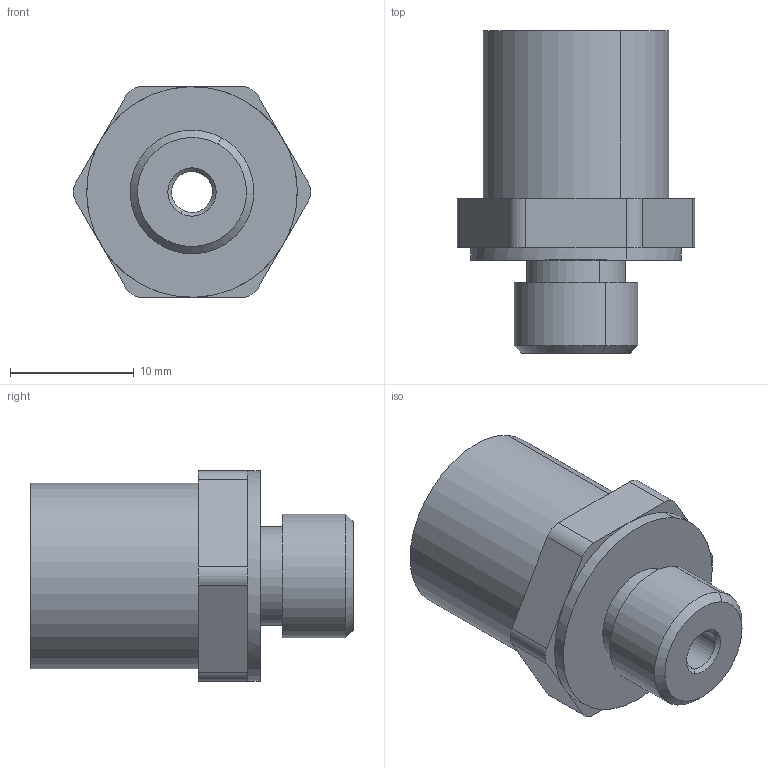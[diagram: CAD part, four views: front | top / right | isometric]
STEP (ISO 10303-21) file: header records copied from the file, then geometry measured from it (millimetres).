
FILE_DESCRIPTION(('CATIA V5 STEP Exchange'),'2;1');
FILE_NAME('\\bosch.com\dfsrb\DfsDE\DIV\BEG\MSD\Gruppen\MSDP\01_Austausch\!Limitierte Beschäftigte\Praktikanten\HnA\3D Modelle Katalog\Neu\Sensoren\Druck in Flüssigkeiten\test.stp','2014-01-16T13:58:06+00:00',('none'),('none'),'CATIA Version 5 Release 19 SP 9 (IN-10)','CATIA V5 STEP AP214','none');
FILE_SCHEMA(('AUTOMOTIVE_DESIGN { 1 0 10303 214 1 1 1 1 }'));
Length unit declared in the file: millimetre
Products named in the file (1): Adapter_PSC-260
Bounding box: 19.17 x 26 x 17 mm (x, y, z)
Volume: 3251 mm3; surface area: 2128.1 mm2
Topology: 1 solids, 1 shells, 43 faces, 98 edges, 60 vertices
Faces by surface type: cylinder 18, plane 17, cone 8
Entity records: 1162 total; most frequent: ORIENTED_EDGE 196, CARTESIAN_POINT 192, DIRECTION 160, EDGE_CURVE 98, AXIS2_PLACEMENT_3D 80, VERTEX_POINT 60, VECTOR 50, LINE 50
